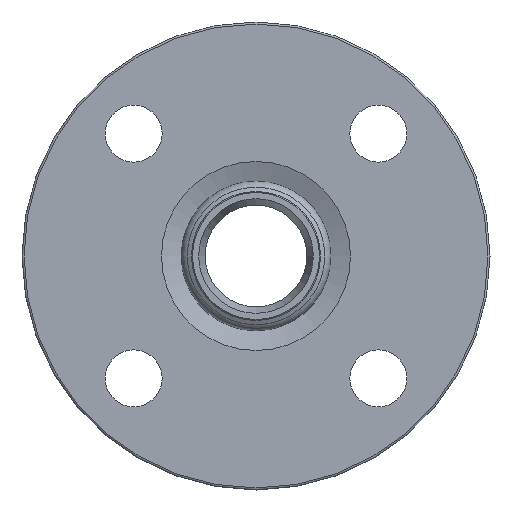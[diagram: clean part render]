
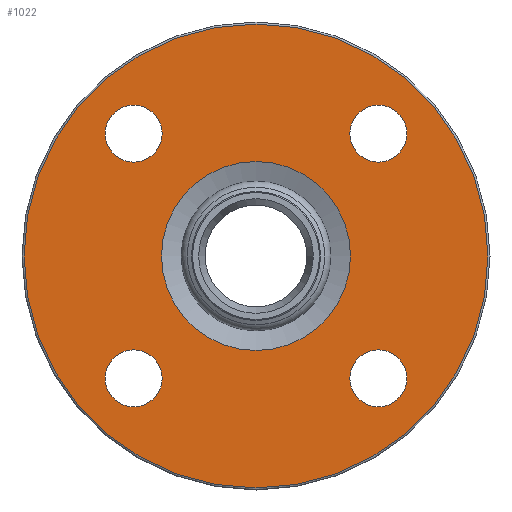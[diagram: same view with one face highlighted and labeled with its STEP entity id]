
A CAD part, left-side view. The second image highlights one B-rep face of the part: STEP entity #1022.
In plain terms, the highlighted planar face has unit normal (-1, 0, 0) as drawn and (0, 0, 1) by its records, which use the part's own axes.
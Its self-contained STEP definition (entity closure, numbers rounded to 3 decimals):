
#763=CARTESIAN_POINT('',(0.0,-23.221,0.));
#764=VERTEX_POINT('',#763);
#765=CARTESIAN_POINT('',(0.0,0.0,0.0));
#766=DIRECTION('',(0.0,0.0,-1.0));
#767=DIRECTION('',(0.0,-1.0,0.0));
#768=AXIS2_PLACEMENT_3D('',#765,#766,#767);
#769=CIRCLE('',#768,23.221);
#770=EDGE_CURVE('',#764,#764,#769,.T.);
#952=CARTESIAN_POINT('',(57.0,0.,0.0));
#953=VERTEX_POINT('',#952);
#954=CARTESIAN_POINT('',(0.0,0.0,0.0));
#955=DIRECTION('',(0.0,0.0,-1.0));
#956=DIRECTION('',(-1.0,0.0,0.0));
#957=AXIS2_PLACEMENT_3D('',#954,#955,#956);
#958=CIRCLE('',#957,57.0);
#959=EDGE_CURVE('',#953,#953,#958,.T.);
#967=CARTESIAN_POINT('',(0.0,0.0,0.0));
#968=DIRECTION('',(0.0,0.0,-1.0));
#969=DIRECTION('',(-1.0,0.0,0.0));
#970=AXIS2_PLACEMENT_3D('',#967,#968,#969);
#971=PLANE('',#970);
#972=ORIENTED_EDGE('',*,*,#959,.F.);
#973=EDGE_LOOP('',(#972));
#974=FACE_OUTER_BOUND('',#973,.T.);
#975=ORIENTED_EDGE('',*,*,#770,.T.);
#976=EDGE_LOOP('',(#975));
#977=FACE_BOUND('',#976,.T.);
#978=CARTESIAN_POINT('',(-23.052,30.052,0.0));
#979=VERTEX_POINT('',#978);
#980=CARTESIAN_POINT('',(-30.052,30.052,0.0));
#981=DIRECTION('',(0.0,0.0,-1.0));
#982=DIRECTION('',(-1.0,0.0,0.0));
#983=AXIS2_PLACEMENT_3D('',#980,#981,#982);
#984=CIRCLE('',#983,7.);
#985=EDGE_CURVE('',#979,#979,#984,.T.);
#986=ORIENTED_EDGE('',*,*,#985,.T.);
#987=EDGE_LOOP('',(#986));
#988=FACE_BOUND('',#987,.T.);
#989=CARTESIAN_POINT('',(37.052,30.052,0.0));
#990=VERTEX_POINT('',#989);
#991=CARTESIAN_POINT('',(30.052,30.052,0.0));
#992=DIRECTION('',(0.0,0.0,-1.0));
#993=DIRECTION('',(-1.0,0.0,0.0));
#994=AXIS2_PLACEMENT_3D('',#991,#992,#993);
#995=CIRCLE('',#994,7.);
#996=EDGE_CURVE('',#990,#990,#995,.T.);
#997=ORIENTED_EDGE('',*,*,#996,.T.);
#998=EDGE_LOOP('',(#997));
#999=FACE_BOUND('',#998,.T.);
#1000=CARTESIAN_POINT('',(37.052,-30.052,0.0));
#1001=VERTEX_POINT('',#1000);
#1002=CARTESIAN_POINT('',(30.052,-30.052,0.0));
#1003=DIRECTION('',(0.0,0.0,-1.0));
#1004=DIRECTION('',(-1.0,0.0,0.0));
#1005=AXIS2_PLACEMENT_3D('',#1002,#1003,#1004);
#1006=CIRCLE('',#1005,7.);
#1007=EDGE_CURVE('',#1001,#1001,#1006,.T.);
#1008=ORIENTED_EDGE('',*,*,#1007,.T.);
#1009=EDGE_LOOP('',(#1008));
#1010=FACE_BOUND('',#1009,.T.);
#1011=CARTESIAN_POINT('',(-23.052,-30.052,0.0));
#1012=VERTEX_POINT('',#1011);
#1013=CARTESIAN_POINT('',(-30.052,-30.052,0.0));
#1014=DIRECTION('',(0.0,0.0,-1.0));
#1015=DIRECTION('',(-1.0,0.0,0.0));
#1016=AXIS2_PLACEMENT_3D('',#1013,#1014,#1015);
#1017=CIRCLE('',#1016,7.);
#1018=EDGE_CURVE('',#1012,#1012,#1017,.T.);
#1019=ORIENTED_EDGE('',*,*,#1018,.T.);
#1020=EDGE_LOOP('',(#1019));
#1021=FACE_BOUND('',#1020,.T.);
#1022=ADVANCED_FACE('',(#974,#977,#988,#999,#1010,#1021),#971,.F.);
